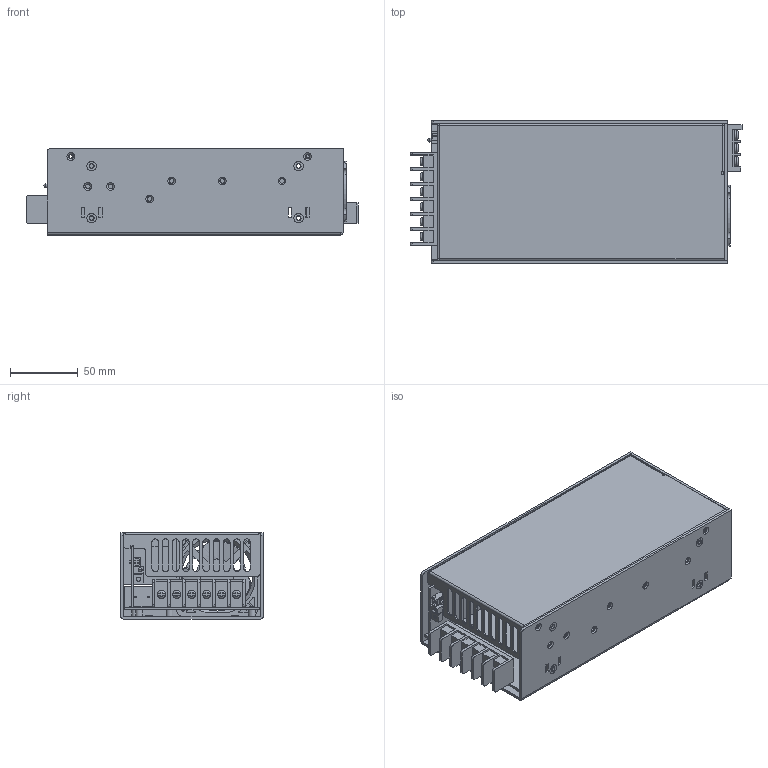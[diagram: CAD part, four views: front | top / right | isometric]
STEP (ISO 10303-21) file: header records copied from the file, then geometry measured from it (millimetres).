
FILE_DESCRIPTION((''),'2;1');
FILE_NAME('C:\Users\shirley\Desktop\HRP-600.stp','2021-04-08T13:38:11',('shirley'),(''),'Autodesk Inventor 2010','Autodesk Inventor 2010','');
FILE_SCHEMA(('AUTOMOTIVE_DESIGN { 1 0 10303 214 1 1 1 1 }'));
Length unit declared in the file: millimetre
Products named in the file (20): HRP-600; a1; ºÝ¤l1; pcb-2; LED; PCB2; PCB; VR; ºÝ¤l2; FAN-ALL; FAN_4715KL40WB30_2; FAN; COVER; BASE; M3-7L.1; p2; ff.2.2; DF11-4DP-2DS; DF11-4DP-2DSÈª
Assembly tree (30 placements, depth 5):
  HRP-600
    a1
      a1
        ºÝ¤l1
        pcb-2
          LED
          PCB2
          PCB
          VR
        ºÝ¤l2
    FAN-ALL
      FAN_4715KL40WB30_2
      FAN
    COVER
    BASE
      M3-7L.1  x5
      p2
      ff.2.2  x8
    DF11-4DP-2DS
      DF11-4DP-2DSÈª
Bounding box: 244.45 x 105 x 63.5 mm (x, y, z)
Volume: 219386.8 mm3; surface area: 252219 mm2
Topology: 23 solids, 24 shells, 1170 faces, 3000 edges, 1927 vertices
Faces by surface type: plane 752, cylinder 298, bspline 62, cone 36, torus 22
Full cylindrical faces by diameter (mm): 2.381 x4, 2.65 x5, 3 x7, 3.1 x4, 3.2 x8, 3.4 x13, 4 x8, 4.09 x5, 4.7 x2, 4.72 x8, 5 x5, 5.5 x1, 6 x6, 6.5 x5, 7 x19, 24.286 x1, 24.762 x1, 52.381 x1
Entity records: 45351 total; most frequent: CARTESIAN_POINT 18638, ORIENTED_EDGE 5276, DIRECTION 5244, EDGE_CURVE 2642, VERTEX_POINT 1762, AXIS2_PLACEMENT_3D 1753, VECTOR 1738, LINE 1738
